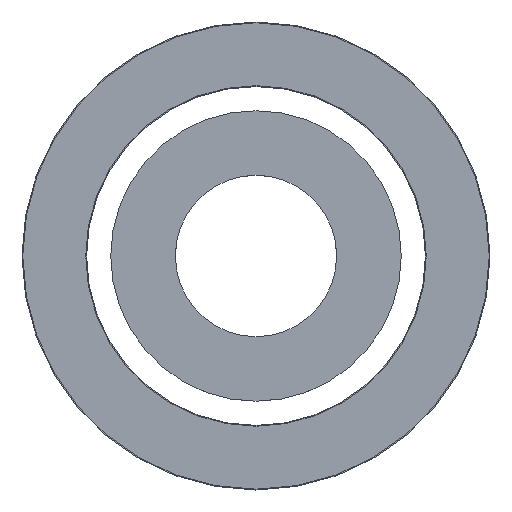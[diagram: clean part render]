
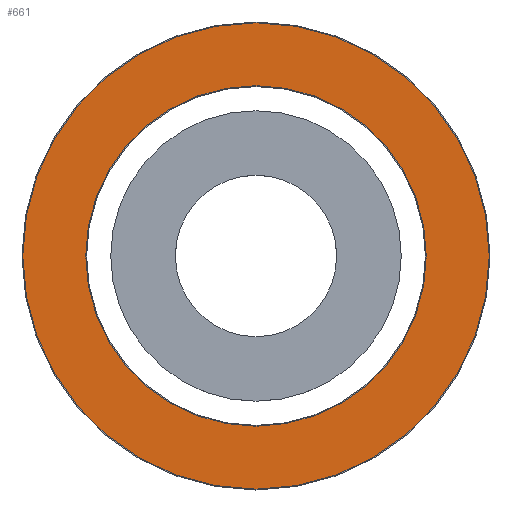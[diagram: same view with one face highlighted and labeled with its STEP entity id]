
A CAD part, top view. The second image highlights one B-rep face of the part: STEP entity #661.
In plain terms, the highlighted planar face has unit normal (0, 0, 1).
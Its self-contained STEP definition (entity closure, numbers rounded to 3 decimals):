
#535=CARTESIAN_POINT('',(0.,0.,0.55));
#536=DIRECTION('',(0.,0.,-1.));
#537=DIRECTION('',(-1.,0.,0.));
#538=AXIS2_PLACEMENT_3D('',#535,#536,#537);
#540=CARTESIAN_POINT('',(0.,0.,0.55));
#541=DIRECTION('',(0.,0.,-1.));
#542=DIRECTION('',(1.,0.,0.));
#543=AXIS2_PLACEMENT_3D('',#540,#541,#542);
#545=CARTESIAN_POINT('',(0.,0.,0.55));
#546=DIRECTION('',(0.,0.,1.));
#547=DIRECTION('',(-1.,0.,0.));
#548=AXIS2_PLACEMENT_3D('',#545,#546,#547);
#550=CARTESIAN_POINT('',(0.,0.,0.55));
#551=DIRECTION('',(0.,0.,1.));
#552=DIRECTION('',(1.,0.,0.));
#553=AXIS2_PLACEMENT_3D('',#550,#551,#552);
#571=CARTESIAN_POINT('',(14.45,0.,0.55));
#572=VERTEX_POINT('',#571);
#573=CARTESIAN_POINT('',(-14.45,0.,0.55));
#574=VERTEX_POINT('',#573);
#575=CARTESIAN_POINT('',(-10.55,0.,0.55));
#576=CARTESIAN_POINT('',(10.55,0.,0.55));
#577=VERTEX_POINT('',#575);
#578=VERTEX_POINT('',#576);
#646=CARTESIAN_POINT('',(0.,0.,0.55));
#647=DIRECTION('',(0.,0.,1.));
#648=DIRECTION('',(1.,0.,0.));
#649=AXIS2_PLACEMENT_3D('',#646,#647,#648);
#650=PLANE('',#649);
#651=ORIENTED_EDGE('',*,*,#612,.T.);
#652=ORIENTED_EDGE('',*,*,#633,.T.);
#653=EDGE_LOOP('',(#651,#652));
#654=FACE_OUTER_BOUND('',#653,.F.);
#656=ORIENTED_EDGE('',*,*,#655,.T.);
#658=ORIENTED_EDGE('',*,*,#657,.T.);
#659=EDGE_LOOP('',(#656,#658));
#660=FACE_BOUND('',#659,.F.);
#661=ADVANCED_FACE('',(#654,#660),#650,.T.);
#539=CIRCLE('',#538,14.45);
#544=CIRCLE('',#543,14.45);
#549=CIRCLE('',#548,10.55);
#554=CIRCLE('',#553,10.55);
#612=EDGE_CURVE('',#574,#572,#539,.T.);
#633=EDGE_CURVE('',#572,#574,#544,.T.);
#655=EDGE_CURVE('',#577,#578,#549,.T.);
#657=EDGE_CURVE('',#578,#577,#554,.T.);
